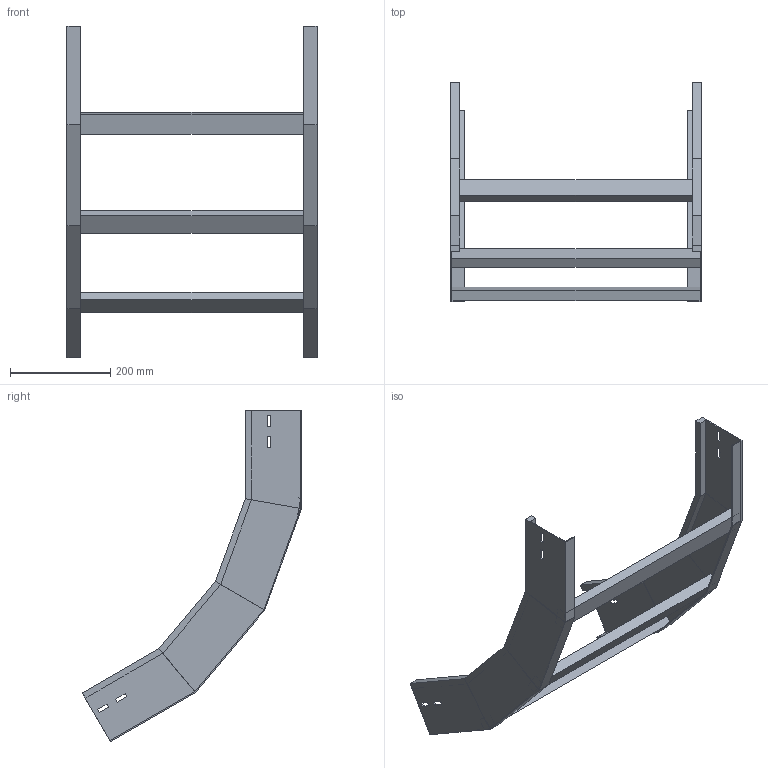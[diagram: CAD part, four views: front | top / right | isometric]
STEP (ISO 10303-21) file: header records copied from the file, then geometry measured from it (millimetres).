
FILE_DESCRIPTION (( 'STEP AP214' ), '1' );
FILE_NAME ('A2X40B5J500XX.step', '2025-03-20T10:14:45', ( '' ), ( '' ), 'SwSTEP 2.0', 'SolidWorks 2023', '' );
FILE_SCHEMA (( 'AUTOMOTIVE_DESIGN' ));
Length unit declared in the file: millimetre
Products named in the file (3): LONGH.SALITA_60°_H112.5_R500; A2X40B5J500XX; TRAVERSINO_500
Assembly tree (5 placements, depth 2):
  A2X40B5J500XX
    LONGH.SALITA_60°_H112.5_R500  x2
    TRAVERSINO_500  x3
Bounding box: 500 x 438.74 x 662.49 mm (x, y, z)
Volume: 1902466.9 mm3; surface area: 663319.8 mm2
Topology: 5 solids, 5 shells, 118 faces, 276 edges, 168 vertices
Faces by surface type: plane 118
Entity records: 1672 total; most frequent: CARTESIAN_POINT 276, ORIENTED_EDGE 264, DIRECTION 260, VECTOR 132, LINE 132, EDGE_CURVE 132, VERTEX_POINT 80, AXIS2_PLACEMENT_3D 64
